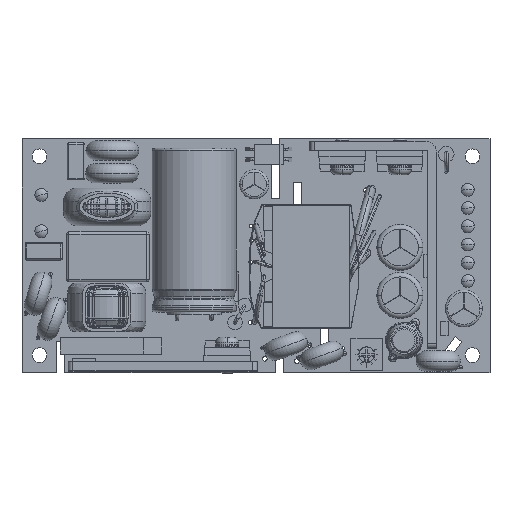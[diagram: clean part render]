
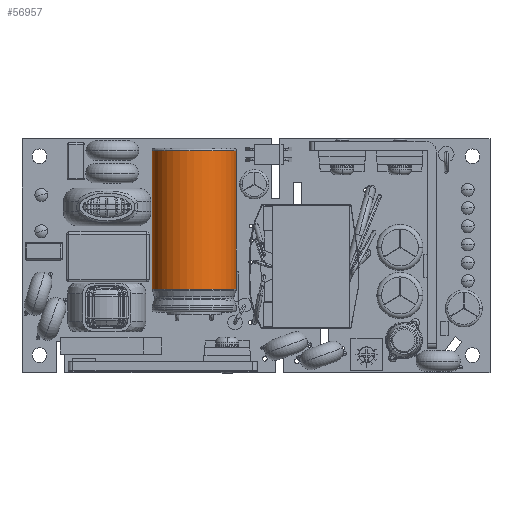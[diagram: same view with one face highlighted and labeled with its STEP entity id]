
A CAD part, top view. The second image highlights one B-rep face of the part: STEP entity #56957.
In plain terms, the highlighted cylindrical face has radius 9.15 mm (diameter 18.3 mm), a partial arc.
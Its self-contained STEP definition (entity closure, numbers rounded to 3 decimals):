
#637 = DIRECTION ( 'NONE',  ( 0., -1., 0. ) ) ;
#6203 = CIRCLE ( 'NONE', #62552, 9.15 ) ;
#6867 = ORIENTED_EDGE ( 'NONE', *, *, #44298, .T. ) ;
#8403 = CARTESIAN_POINT ( 'NONE',  ( -3.56, 24.346, 9.55 ) ) ;
#9840 = AXIS2_PLACEMENT_3D ( 'NONE', #36824, #67580, #98241 ) ;
#10324 = CARTESIAN_POINT ( 'NONE',  ( -21.86, 23.846, 9.55 ) ) ;
#12520 = CARTESIAN_POINT ( 'NONE',  ( -12.71, 24.346, 9.55 ) ) ;
#13870 = VERTEX_POINT ( 'NONE', #43166 ) ;
#14984 = LINE ( 'NONE', #45771, #88642 ) ;
#23107 = ORIENTED_EDGE ( 'NONE', *, *, #35551, .T. ) ;
#26366 = VERTEX_POINT ( 'NONE', #10324 ) ;
#30306 = ORIENTED_EDGE ( 'NONE', *, *, #88311, .T. ) ;
#31371 = DIRECTION ( 'NONE',  ( 1., 0., 0. ) ) ;
#35551 = EDGE_CURVE ( 'NONE', #26366, #88186, #14984, .T. ) ;
#36824 = CARTESIAN_POINT ( 'NONE',  ( -12.71, -6.186, 9.55 ) ) ;
#39138 = LINE ( 'NONE', #8403, #69962 ) ;
#43166 = CARTESIAN_POINT ( 'NONE',  ( -3.56, 23.846, 9.55 ) ) ;
#43277 = DIRECTION ( 'NONE',  ( 0., -1., 0. ) ) ;
#44298 = EDGE_CURVE ( 'NONE', #88186, #47387, #53308, .T. ) ;
#45771 = CARTESIAN_POINT ( 'NONE',  ( -21.86, 24.346, 9.55 ) ) ;
#47387 = VERTEX_POINT ( 'NONE', #96954 ) ;
#50864 = FACE_OUTER_BOUND ( 'NONE', #82490, .T. ) ;
#53308 = CIRCLE ( 'NONE', #9840, 9.15 ) ;
#54058 = ORIENTED_EDGE ( 'NONE', *, *, #76820, .F. ) ;
#56957 = ADVANCED_FACE ( 'NONE', ( #50864 ), #81564, .T. ) ;
#62552 = AXIS2_PLACEMENT_3D ( 'NONE', #69702, #637, #31371 ) ;
#67580 = DIRECTION ( 'NONE',  ( 0., 1., 0. ) ) ;
#69702 = CARTESIAN_POINT ( 'NONE',  ( -12.71, 23.846, 9.55 ) ) ;
#69962 = VECTOR ( 'NONE', #77422, 1000. ) ;
#74005 = DIRECTION ( 'NONE',  ( 1., 0., 0. ) ) ;
#76493 = DIRECTION ( 'NONE',  ( 0., -1., 0. ) ) ;
#76820 = EDGE_CURVE ( 'NONE', #13870, #47387, #39138, .T. ) ;
#77422 = DIRECTION ( 'NONE',  ( 0., -1., 0. ) ) ;
#77532 = AXIS2_PLACEMENT_3D ( 'NONE', #12520, #43277, #74005 ) ;
#81564 = CYLINDRICAL_SURFACE ( 'NONE', #77532, 9.15 ) ;
#82490 = EDGE_LOOP ( 'NONE', ( #30306, #23107, #6867, #54058 ) ) ;
#88186 = VERTEX_POINT ( 'NONE', #97359 ) ;
#88311 = EDGE_CURVE ( 'NONE', #13870, #26366, #6203, .T. ) ;
#88642 = VECTOR ( 'NONE', #76493, 1000. ) ;
#96954 = CARTESIAN_POINT ( 'NONE',  ( -3.56, -6.186, 9.55 ) ) ;
#97359 = CARTESIAN_POINT ( 'NONE',  ( -21.86, -6.186, 9.55 ) ) ;
#98241 = DIRECTION ( 'NONE',  ( -1., 0., 0. ) ) ;
